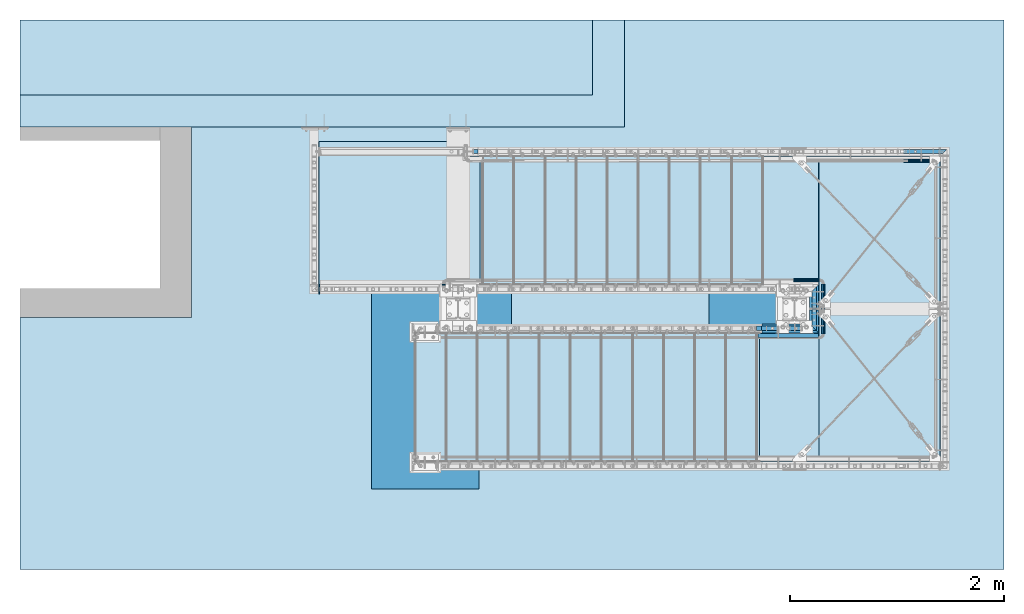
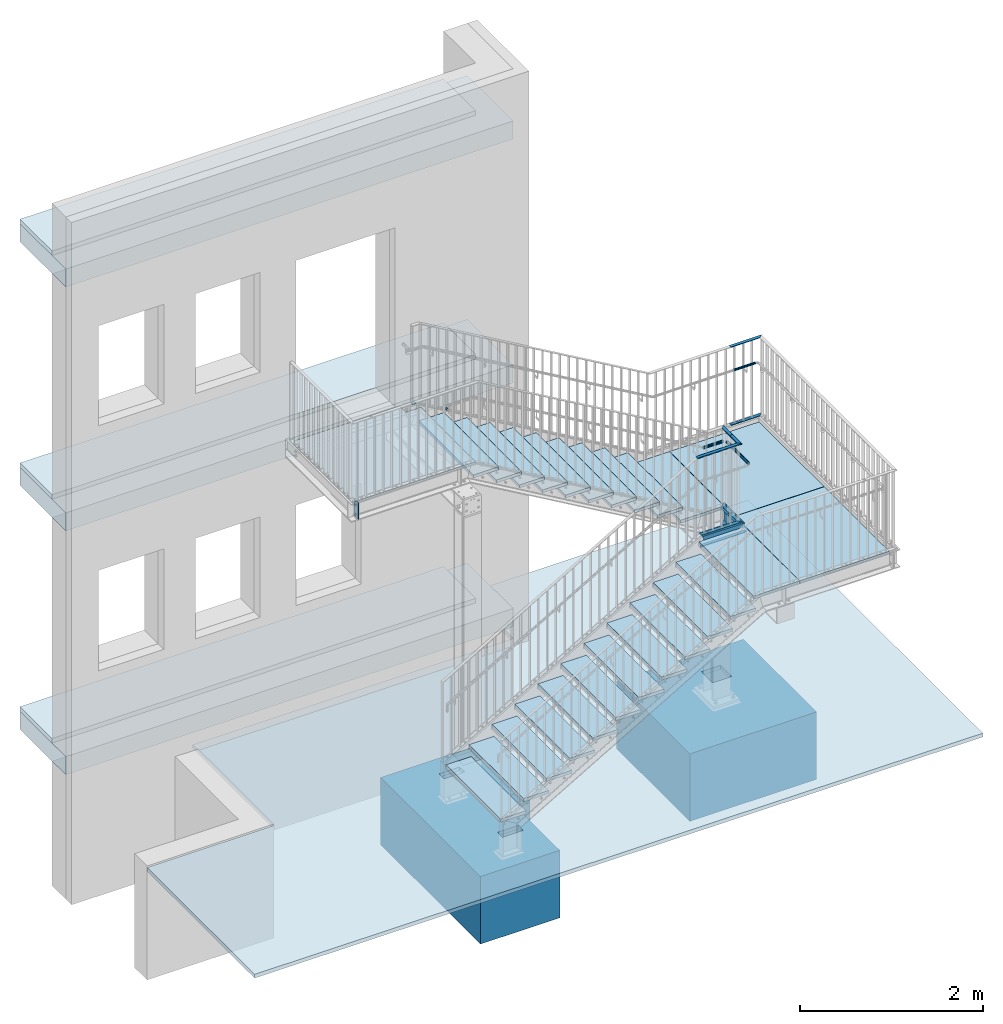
# One storey, part 18 of 145: 26 plates, 18 beams, 9 slabs, 24 openings.
"""IFC2X3 building model written with IfcOpenShell, lengths in millimetres."""

from ifc_helpers import new_model, entity, si_unit, converted_unit, frame, frame_2d, origin, origin_with_axes, origin_2d, origin_2d_with_axis, place, context, project, spatial, polyline, rectangle, circle, hollow_circle, l_section, u_section, outline, extrude, clip, halfspace, material, layer, layer_set, element, save


model = new_model("IFC2X3")

# Units and contexts
model_context = context("Model", 3, precision=1e-09, world=origin_with_axes())
ifc_project = project(units=[si_unit("LENGTHUNIT", "METRE", prefix="MILLI"), si_unit("AREAUNIT", "SQUARE_METRE"), si_unit("VOLUMEUNIT", "CUBIC_METRE"), converted_unit("PLANEANGLEUNIT", "DEGREE", entity("IfcPlaneAngleMeasure", 0.01745329), si_unit("PLANEANGLEUNIT", "RADIAN"), dimensions=[0, 0, 0, 0, 0, 0, 0])], contexts=[model_context])

# Site, building, storey
site_placement = place(None, origin_with_axes())
site = spatial("IfcSite", under=ifc_project, at=site_placement, Name="BZ1 Grund- und Mittelschule 85716 Unterschlei?heim", CompositionType="ELEMENT")
building_placement = place(site_placement, origin_with_axes())
building = spatial("IfcBuilding", under=site, at=building_placement, Name="Struktur 1", CompositionType="ELEMENT")
storey_placement = place(building_placement, origin_with_axes())
storey = spatial("IfcBuildingStorey", under=building, at=storey_placement, Name="Default Storey", CompositionType="ELEMENT", Elevation=0.0)

# Beams
ifc_material_1 = material(Name="1.4301")
beam_1_placement = place(None, frame((16938.141490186, -1489.502, 4085.0), z_axis=(0.0, 1.0, 0.0), x_axis=(0.0, 0.0, 1.0)))
element("IfcBeam", 1, at=beam_1_placement, inside=storey, material=ifc_material_1, Name="-", ObjectType="-", context=model_context, shape_type="SweptSolid", body=[
    extrude(hollow_circle(Radius=15.0, WallThickness=2.0, at=origin_2d()), origin(), (0.0, 0.0, 1.0), 28.5),
])
ifc_material_2 = material(Name="S235JR")
beam_2_placement = place(None, frame((17277.754556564, -227.502, 3304.000000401), z_axis=(1.0, 0.0, 0.0), x_axis=(0.0, 0.0, -1.0)))
element("IfcBeam", 2, at=beam_2_placement, inside=storey, material=ifc_material_2, Name="-", ObjectType="-", context=model_context, shape_type="Clipping", body=[
    clip(extrude(rectangle(XDim=8.0, YDim=40.0, at=origin_2d()), origin(), (0.0, 0.0, -1.0), 68.613066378), halfspace(frame((7417.475003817, 227.502, -2021.000201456), z_axis=(-0.260320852, 0.0, -0.965522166), x_axis=(0.0, -1.0, 0.0)), True)),
])
beam_3_placement = place(None, frame((20444.84472732, -1427.502, 2398.636364), z_axis=(1.0, 0.0, 0.0), x_axis=(0.0, 0.0, 1.0)))
element("IfcBeam", 3, at=beam_3_placement, inside=storey, material=ifc_material_1, Name="-", ObjectType="-", context=model_context, shape_type="Clipping", body=[
    clip(extrude(hollow_circle(Radius=15.0, WallThickness=2.0, at=origin_2d()), origin(), (0.0, 0.0, -1.0), 263.717697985), halfspace(frame((-7314.047140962, -1427.502, -2213.73484666), z_axis=(-0.260320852, 0.0, 0.965522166), x_axis=(0.0, -1.0, 0.0)), True)),
])

# Beam, openings
beam_4_placement = place(None, frame((20413.54472732, -2163.110643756, 1493.6363644), z_axis=(0.0, -1.0, 0.0), x_axis=(-1.0, 0.0, 0.0)))
beam_4 = element("IfcBeam", 4, at=beam_4_placement, inside=storey, material=ifc_material_2, Name="-", ObjectType="-", context=model_context, shape_type="Clipping", body=[
    clip(extrude(u_section(Depth=240.0, FlangeWidth=85.0, WebThickness=9.5, FlangeThickness=13.0, FilletRadius=13.0, EdgeRadius=6.5, FlangeSlope=4.574, at=frame_2d((20.2, 0.0))), origin(), (0.0, 0.0, -1.0), 458.108643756), halfspace(frame((11155.622656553, 1493.6363644, -11421.032714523), z_axis=(-0.707106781, 0.0, -0.707106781), x_axis=(0.707106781, 0.0, -0.707106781)), True)),
])
opening_1_placement = place(beam_4_placement, frame((-22.8, 30.0, -423.108643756), z_axis=(1.0, 0.0, 0.0), x_axis=(0.0, 0.0, 1.0)))
element("IfcOpeningElement", 5, at=opening_1_placement, cuts=beam_4, ObjectType="Opening", context=model_context, shape_type="SweptSolid", body=[
    extrude(circle(Radius=7.001, at=origin_2d_with_axis()), origin(), (0.0, 0.0, 1.0), 10.5),
])
opening_2_placement = place(beam_4_placement, frame((20.2, -106.5, -362.441977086), z_axis=(0.0, -1.0, 0.0), x_axis=(0.0, 0.0, 1.0)))
element("IfcOpeningElement", 6, at=opening_2_placement, cuts=beam_4, ObjectType="Opening", context=model_context, shape_type="SweptSolid", body=[
    extrude(circle(Radius=7.001, at=origin_2d_with_axis()), origin(), (0.0, 0.0, 1.0), 14.0),
])

beam_5_placement = place(None, frame((20413.54472732, -1685.002, 1493.6363644), z_axis=(0.0, -1.0, 0.0), x_axis=(-1.0, 0.0, 0.0)))
beam_5 = element("IfcBeam", 7, at=beam_5_placement, inside=storey, material=ifc_material_2, Name="-", ObjectType="-", context=model_context, shape_type="Clipping", body=[
    clip(extrude(u_section(Depth=240.0, FlangeWidth=85.0, WebThickness=9.5, FlangeThickness=13.0, FilletRadius=13.0, EdgeRadius=6.5, FlangeSlope=4.574, at=frame_2d((20.2, 0.0))), origin(), (0.0, 0.0, -1.0), 458.108643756), halfspace(frame((9460.620656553, 1493.6363644, 9267.922070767), z_axis=(-0.707106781, 0.0, 0.707106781), x_axis=(-0.707106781, 0.0, -0.707106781)), True)),
])
opening_3_placement = place(beam_5_placement, frame((-22.8, 30.0, -35.0), z_axis=(1.0, 0.0, 0.0), x_axis=(0.0, 0.0, 1.0)))
element("IfcOpeningElement", 8, at=opening_3_placement, cuts=beam_5, ObjectType="Opening", context=model_context, shape_type="SweptSolid", body=[
    extrude(circle(Radius=7.001, at=origin_2d_with_axis()), origin(), (0.0, 0.0, 1.0), 10.5),
])
opening_4_placement = place(beam_5_placement, frame((20.2, -106.5, -88.66566667), z_axis=(0.0, 1.0, 0.0), x_axis=(-1.0, 0.0, 0.0)))
element("IfcOpeningElement", 9, at=opening_4_placement, cuts=beam_5, ObjectType="Opening", context=model_context, shape_type="SweptSolid", body=[
    extrude(circle(Radius=7.001, at=frame_2d((0.0, -7.001), x_axis=(1.0, 0.0))), origin(), (0.0, 0.0, -1.0), 14.0),
])

# Beam, opening
beam_6_placement = place(None, frame((20393.34472732, -1906.346410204, 1617.636364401), z_axis=(0.0, -1.0, 0.0), x_axis=(0.0, 0.0, 1.0)))
beam_6 = element("IfcBeam", 10, at=beam_6_placement, inside=storey, material=ifc_material_2, Name="-", ObjectType="-", context=model_context, shape_type="Clipping", body=[
    clip(extrude(rectangle(XDim=8.0, YDim=40.0, at=origin_2d()), origin(), (0.0, 0.0, -1.0), 201.344410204), halfspace(frame((-1617.636364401, 11135.422656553, -11164.268480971), z_axis=(0.0, -0.707106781, -0.707106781), x_axis=(0.0, 0.707106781, -0.707106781)), True)),
])
opening_5_placement = place(beam_6_placement, frame((-4.5, 0.0, -105.677743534), z_axis=(1.0, 0.0, 0.0), x_axis=(0.0, 0.0, 1.0)))
element("IfcOpeningElement", 11, at=opening_5_placement, cuts=beam_6, ObjectType="Opening", context=model_context, shape_type="SweptSolid", body=[
    extrude(circle(Radius=7.501, at=origin_2d_with_axis()), origin(), (0.0, 0.0, 1.0), 9.0),
])

beam_7_placement = place(None, frame((20393.34472732, -1685.002, 1617.636364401), z_axis=(0.0, -1.0, 0.0), x_axis=(0.0, 0.0, 1.0)))
beam_7 = element("IfcBeam", 12, at=beam_7_placement, inside=storey, material=ifc_material_2, Name="-", ObjectType="-", context=model_context, shape_type="Clipping", body=[
    clip(extrude(rectangle(XDim=8.0, YDim=40.0, at=origin_2d()), origin(), (0.0, 0.0, -1.0), 201.344410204), halfspace(frame((-1617.636364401, 9440.420656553, 9267.922070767), z_axis=(0.0, -0.707106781, 0.707106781), x_axis=(0.0, -0.707106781, -0.707106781)), True)),
])
opening_6_placement = place(beam_7_placement, frame((-4.5, 0.0, -88.16566667), z_axis=(-1.0, 0.0, 0.0), x_axis=(0.0, -1.0, 0.0)))
element("IfcOpeningElement", 13, at=opening_6_placement, cuts=beam_7, ObjectType="Opening", context=model_context, shape_type="SweptSolid", body=[
    extrude(circle(Radius=7.501, at=frame_2d((0.0, -7.501), x_axis=(1.0, 0.0))), origin(), (0.0, 0.0, -1.0), 9.0),
])

# Beams
beam_8_placement = place(None, frame((20393.34472732, -1906.346410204, 2659.6363644), z_axis=(0.0, -1.0, 0.0), x_axis=(0.0, 0.0, 1.0)))
element("IfcBeam", 14, at=beam_8_placement, inside=storey, material=ifc_material_2, Name="-", ObjectType="-", context=model_context, shape_type="Clipping", body=[
    clip(extrude(rectangle(XDim=8.0, YDim=40.0, at=origin_2d()), origin(), (0.0, 0.0, -1.0), 210.344410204), halfspace(frame((-2659.6363644, 11135.422656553, -11164.268480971), z_axis=(0.0, -0.707106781, -0.707106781), x_axis=(0.0, 0.707106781, -0.707106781)), True)),
])
beam_9_placement = place(None, frame((20393.34472732, -1694.002, 2659.6363644), z_axis=(0.0, -1.0, 0.0), x_axis=(0.0, 0.0, 1.0)))
element("IfcBeam", 15, at=beam_9_placement, inside=storey, material=ifc_material_2, Name="-", ObjectType="-", context=model_context, shape_type="Clipping", body=[
    clip(extrude(rectangle(XDim=8.0, YDim=40.0, at=origin_2d()), origin(), (0.0, 0.0, -1.0), 210.344410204), halfspace(frame((-2659.6363644, 9440.420656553, 9258.922070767), z_axis=(0.0, -0.707106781, 0.707106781), x_axis=(0.0, -0.707106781, -0.707106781)), True)),
])
for number, where, z_axis, x_axis in (
    (16, (20478.34472732, -1929.002, 2398.636364), (0.0, 1.0, 0.0), (0.0, 0.0, -1.0)),
    (17, (20478.34472732, -1695.002, 2398.636364), (0.0, 1.0, 0.0), (0.0, 0.0, -1.0)),
):
    element("IfcBeam", number, at=place(None, frame(where, z_axis=z_axis, x_axis=x_axis)), inside=storey, material=ifc_material_1, Name="-", ObjectType="-", context=model_context, shape_type="SweptSolid", body=[
        extrude(hollow_circle(Radius=15.0, WallThickness=2.0, at=origin_2d()), origin(), (0.0, 0.0, 1.0), 234.0),
    ])

# Beam, opening
beam_10_placement = place(None, frame((21229.141490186, -227.502, 1617.636364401), z_axis=(1.0, 0.0, 0.0), x_axis=(0.0, 0.0, -1.0)))
beam_10 = element("IfcBeam", 18, at=beam_10_placement, inside=storey, material=ifc_material_2, Name="-", ObjectType="-", context=model_context, shape_type="Clipping", body=[
    clip(extrude(rectangle(XDim=8.0, YDim=40.0, at=origin_2d()), origin(), (0.0, 0.0, 1.0), 413.047647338), halfspace(frame((1617.636364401, -10692.920656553, -10308.718833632), z_axis=(0.0, 0.707106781, -0.707106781), x_axis=(0.0, -0.707106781, -0.707106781)), True)),
])
opening_7_placement = place(beam_10_placement, frame((4.5, 0.0, 109.0), z_axis=(-1.0, 0.0, 0.0), x_axis=(0.0, 0.0, -1.0)))
element("IfcOpeningElement", 19, at=opening_7_placement, cuts=beam_10, ObjectType="Opening", context=model_context, shape_type="SweptSolid", body=[
    extrude(circle(Radius=7.501, at=origin_2d_with_axis()), origin(), (0.0, 0.0, 1.0), 9.0),
])

# Beams
beam_11_placement = place(None, frame((21229.141490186, -227.502, 2659.6363644), z_axis=(1.0, 0.0, 0.0), x_axis=(0.0, 0.0, -1.0)))
element("IfcBeam", 20, at=beam_11_placement, inside=storey, material=ifc_material_2, Name="-", ObjectType="-", context=model_context, shape_type="Clipping", body=[
    clip(extrude(rectangle(XDim=8.0, YDim=40.0, at=origin_2d()), origin(), (0.0, 0.0, 1.0), 413.047647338), halfspace(frame((2659.6363644, -10692.920656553, -10308.718833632), z_axis=(0.0, 0.707106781, -0.707106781), x_axis=(0.0, -0.707106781, -0.707106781)), True)),
])
beam_12_placement = place(None, frame((21494.84472732, -312.502, 2398.636364), z_axis=(-1.0, 0.0, 0.0), x_axis=(0.0, 0.0, 1.0)))
element("IfcBeam", 21, at=beam_12_placement, inside=storey, material=ifc_material_1, Name="-", ObjectType="-", context=model_context, shape_type="SweptSolid", body=[
    extrude(hollow_circle(Radius=15.0, WallThickness=2.0, at=origin_2d()), origin(), (0.0, 0.0, 1.0), 266.703237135),
])

# Beam, openings
beam_13_placement = place(None, frame((19760.447410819, -1897.702, 1493.6363644), z_axis=(-1.0, 0.0, 0.0), x_axis=(0.0, 1.0, 0.0)))
beam_13 = element("IfcBeam", 22, at=beam_13_placement, inside=storey, material=ifc_material_2, Name="-", ObjectType="-", context=model_context, shape_type="Clipping", body=[
    clip(clip(extrude(u_section(Depth=240.0, FlangeWidth=85.0, WebThickness=9.5, FlangeThickness=13.0, FilletRadius=13.0, EdgeRadius=6.5, FlangeSlope=4.574, at=frame_2d((20.2, 0.0))), origin(), (0.0, 0.0, -1.0), 918.505960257), halfspace(frame((1897.702, -3619.033794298, 797.708450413), z_axis=(0.0, -0.260320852, -0.965522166), x_axis=(1.0, 0.0, 0.0)), True)), halfspace(frame((11155.622656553, 1493.6363644, 10502.526754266), z_axis=(-0.707106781, 0.0, 0.707106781), x_axis=(-0.707106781, 0.0, -0.707106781)), True)),
])
opening_8_placement = place(beam_13_placement, frame((20.2, -106.5, -236.097482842), z_axis=(0.0, 1.0, 0.0), x_axis=(-1.0, 0.0, 0.0)))
element("IfcOpeningElement", 23, at=opening_8_placement, cuts=beam_13, ObjectType="Opening", context=model_context, shape_type="SweptSolid", body=[
    extrude(circle(Radius=7.001, at=frame_2d((0.0, -7.001), x_axis=(1.0, 0.0))), origin(), (0.0, 0.0, -1.0), 14.0),
])
opening_9_placement = place(beam_13_placement, frame((20.2, -106.5, -456.097482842), z_axis=(0.0, 1.0, 0.0), x_axis=(-1.0, 0.0, 0.0)))
element("IfcOpeningElement", 24, at=opening_9_placement, cuts=beam_13, ObjectType="Opening", context=model_context, shape_type="SweptSolid", body=[
    extrude(circle(Radius=7.001, at=frame_2d((0.0, -7.001), x_axis=(1.0, 0.0))), origin(), (0.0, 0.0, -1.0), 14.0),
])
opening_10_placement = place(beam_13_placement, frame((20.2, 120.5, -450.397316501), z_axis=(0.0, -1.0, 0.0), x_axis=(0.0, 0.0, -1.0)))
element("IfcOpeningElement", 25, at=opening_10_placement, cuts=beam_13, ObjectType="Opening", context=model_context, shape_type="SweptSolid", body=[
    extrude(circle(Radius=9.001, at=frame_2d((60.0, 0.0), x_axis=(1.0, 0.0))), origin(), (0.0, 0.0, 1.0), 14.0),
])
opening_11_placement = place(beam_13_placement, frame((20.2, 120.5, -450.397316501), z_axis=(0.0, -1.0, 0.0), x_axis=(0.0, 0.0, -1.0)))
element("IfcOpeningElement", 26, at=opening_11_placement, cuts=beam_13, ObjectType="Opening", context=model_context, shape_type="SweptSolid", body=[
    extrude(circle(Radius=9.001, at=frame_2d((-60.0, 0.0), x_axis=(1.0, 0.0))), origin(), (0.0, 0.0, 1.0), 14.0),
])

beam_14_placement = place(None, frame((19883.932827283, -1877.502, 1617.636364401), z_axis=(-1.0, 0.0, 0.0), x_axis=(0.0, 0.0, 1.0)))
beam_14 = element("IfcBeam", 27, at=beam_14_placement, inside=storey, material=ifc_material_2, Name="-", ObjectType="-", context=model_context, shape_type="Clipping", body=[
    clip(clip(extrude(rectangle(XDim=8.0, YDim=40.0, at=origin_2d()), origin(), (0.0, 0.0, -1.0), 538.256310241), halfspace(frame((3495.033794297, 1877.502, 921.193866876), z_axis=(0.260320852, 0.0, -0.965522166), x_axis=(0.0, 1.0, 0.0)), True)), halfspace(frame((-1617.636364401, 11135.422656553, 10626.012170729), z_axis=(0.0, -0.707106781, 0.707106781), x_axis=(0.0, -0.707106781, -0.707106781)), True)),
])
opening_12_placement = place(beam_14_placement, frame((-4.5, 0.0, -332.112066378), z_axis=(-1.0, 0.0, 0.0), x_axis=(0.0, -1.0, 0.0)))
element("IfcOpeningElement", 28, at=opening_12_placement, cuts=beam_14, ObjectType="Opening", context=model_context, shape_type="SweptSolid", body=[
    extrude(circle(Radius=7.501, at=frame_2d((0.0, -7.501), x_axis=(1.0, 0.0))), origin(), (0.0, 0.0, -1.0), 9.0),
])
opening_13_placement = place(beam_14_placement, frame((-4.5, 0.0, -112.112066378), z_axis=(-1.0, 0.0, 0.0), x_axis=(0.0, -1.0, 0.0)))
element("IfcOpeningElement", 29, at=opening_13_placement, cuts=beam_14, ObjectType="Opening", context=model_context, shape_type="SweptSolid", body=[
    extrude(circle(Radius=7.501, at=frame_2d((0.0, -7.501), x_axis=(1.0, 0.0))), origin(), (0.0, 0.0, -1.0), 9.0),
])

# Beams
beam_15_placement = place(None, frame((19834.499463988, -1877.502, 2659.6363644), z_axis=(-1.0, 0.0, 0.0), x_axis=(0.0, 0.0, 1.0)))
element("IfcBeam", 30, at=beam_15_placement, inside=storey, material=ifc_material_2, Name="-", ObjectType="-", context=model_context, shape_type="Clipping", body=[
    clip(clip(extrude(rectangle(XDim=8.0, YDim=40.0, at=origin_2d()), origin(), (0.0, 0.0, -1.0), 587.689673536), halfspace(frame((2511.222096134, 1877.502, 655.94185231), z_axis=(0.260320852, 0.0, -0.965522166), x_axis=(0.0, 1.0, 0.0)), True)), halfspace(frame((-2659.6363644, 11135.422656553, 10576.578807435), z_axis=(0.0, -0.707106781, 0.707106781), x_axis=(0.0, -0.707106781, -0.707106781)), True)),
])
beam_16_placement = place(None, frame((19869.545399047, -1934.202, 1512.4363644), z_axis=(-1.0, 0.0, 0.0), x_axis=(0.0, 0.0, -1.0)))
element("IfcBeam", 31, at=beam_16_placement, inside=storey, material=ifc_material_2, Name="-", ObjectType="-", context=model_context, shape_type="SweptSolid", body=[
    extrude(l_section(Depth=40.0, Width=40.0, Thickness=4.0, FilletRadius=6.0, EdgeRadius=3.0, at=frame_2d((8.8, 8.8))), origin(), (0.0, 0.0, -1.0), 566.299328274),
])

# Plates
ifc_layer_1 = layer(ifc_material_2, 40.0)
ifc_layer_set_1 = layer_set([ifc_layer_1], Name="S235JR")
for number, where, z_axis, x_axis, name in (
    (32, (16825.545399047, -2520.002, -331.3636356), (0.0, 0.0, 1.0), (0.0, 1.0, 0.0), "Grating"),
    (33, (17405.545399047, -2520.002, 5.909091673), (0.0, 0.0, 1.0), (0.0, 1.0, 0.0), "Grating"),
    (34, (17695.545399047, -2520.002, 174.545455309), (0.0, 0.0, 1.0), (0.0, 1.0, 0.0), "Grating"),
    (35, (17985.545399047, -2520.002, 343.181818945), (0.0, 0.0, 1.0), (0.0, 1.0, 0.0), "Grating"),
    (36, (18275.545399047, -2520.002, 511.818182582), (0.0, 0.0, 1.0), (0.0, 1.0, 0.0), "Grating"),
    (37, (18565.545399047, -2520.002, 680.454546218), (0.0, 0.0, 1.0), (0.0, 1.0, 0.0), "Grating"),
    (38, (18855.545399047, -2520.002, 849.090909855), (0.0, 0.0, 1.0), (0.0, 1.0, 0.0), "Grating"),
    (39, (19145.545399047, -2520.002, 1017.727273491), (0.0, 0.0, 1.0), (0.0, 1.0, 0.0), "Grating"),
    (40, (19435.545399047, -2520.002, 1186.363637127), (0.0, 0.0, 1.0), (0.0, 1.0, 0.0), "Grating"),
    (41, (19725.545399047, -2520.002, 1355.000000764), (0.0, 0.0, 1.0), (0.0, 1.0, 0.0), "Grating"),
    (42, (17726.1419848, -870.002, 2872.727273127), (0.0, 0.0, 1.0), (0.0, -1.0, 0.0), "Grating"),
    (43, (17436.1419848, -870.002, 3041.363636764), (0.0, 0.0, 1.0), (0.0, -1.0, 0.0), "Grating"),
    (44, (18016.1419848, -870.002, 2704.090909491), (0.0, 0.0, 1.0), (0.0, -1.0, 0.0), "Grating"),
    (45, (18886.1419848, -870.002, 2198.181818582), (0.0, 0.0, 1.0), (0.0, -1.0, 0.0), "Grating"),
    (46, (18596.1419848, -870.002, 2366.818182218), (0.0, 0.0, 1.0), (0.0, -1.0, 0.0), "Grating"),
    (47, (18306.1419848, -870.002, 2535.454545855), (0.0, 0.0, 1.0), (0.0, -1.0, 0.0), "Grating"),
    (48, (19756.1419848, -870.002, 1692.272727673), (0.0, 0.0, 1.0), (0.0, -1.0, 0.0), "Grating"),
    (49, (19466.1419848, -870.002, 1860.909091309), (0.0, 0.0, 1.0), (0.0, -1.0, 0.0), "Grating"),
    (50, (19176.1419848, -870.002, 2029.545454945), (0.0, 0.0, 1.0), (0.0, -1.0, 0.0), "Grating"),
):
    element("IfcPlate", number, at=place(None, frame(where, z_axis=z_axis, x_axis=x_axis)), inside=storey, material=ifc_layer_set_1, Name=name, ObjectType="Grating", context=model_context, shape_type="SweptSolid", body=[
        extrude(outline(polyline([(-597.0, -159.0), (597.0, -159.0), (597.0, 159.0), (-597.0, 159.0), (-597.0, -159.0)])), origin_with_axes(), (0.0, 0.0, 1.0), 40.0),
    ])

# Plate, opening
plate_1_placement = place(None, frame((16539.64285606, -802.002, 3210.0000004), z_axis=(0.0, 0.0, 1.0), x_axis=(1.0, 0.0, 0.0)))
plate_1 = element("IfcPlate", 51, at=plate_1_placement, inside=storey, material=ifc_layer_set_1, Name="Grating", ObjectType="Grating", context=model_context, shape_type="SweptSolid", body=[
    extrude(outline(polyline([(-765.49912874, -667.0), (765.49912874, -667.0), (765.49912874, 667.0), (-765.49912874, 667.0), (-765.49912874, -667.0)])), origin_with_axes(), (0.0, 0.0, 1.0), 40.0),
])
opening_14_placement = place(plate_1_placement, frame((0.0, 0.0, -0.1), z_axis=(0.0, 0.0, 1.0), x_axis=(1.0, 0.0, 0.0)))
element("IfcOpeningElement", 52, at=opening_14_placement, cuts=plate_1, ObjectType="Opening", context=model_context, shape_type="SweptSolid", body=[
    extrude(outline(polyline([(576.20187126, 530.999), (947.888538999, 530.999), (947.888538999, 784.306897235), (576.20187126, 784.306897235), (576.20187126, 530.999)])), origin(), (0.0, 0.0, 1.0), 40.2),
])

# Plate, openings
ifc_layer_2 = layer(ifc_material_2, 10.0)
ifc_layer_set_2 = layer_set([ifc_layer_2], Name="S235JR")
plate_2_placement = place(None, frame((15770.84372732, -1512.502, 3180.0000004), z_axis=(1.0, 0.0, 0.0), x_axis=(0.0, 1.0, 0.0)))
plate_2 = element("IfcPlate", 53, at=plate_2_placement, inside=storey, material=ifc_layer_set_2, Name="-", ObjectType="-", context=model_context, shape_type="SweptSolid", body=[
    extrude(outline(polyline([(-42.5, -113.0), (42.5, -113.0), (42.5, 113.0), (-42.5, 113.0), (-42.5, -113.0)])), origin_with_axes(), (0.0, 0.0, 1.0), 10.0),
])
opening_15_placement = place(plate_2_placement, frame((20.0, 94.0, -0.5), z_axis=(0.0, 0.0, 1.0), x_axis=(0.0, 1.0, 0.0)))
element("IfcOpeningElement", 54, at=opening_15_placement, cuts=plate_2, ObjectType="Opening", context=model_context, shape_type="SweptSolid", body=[
    extrude(circle(Radius=6.001, at=origin_2d_with_axis()), origin(), (0.0, 0.0, 1.0), 11.0),
])
opening_16_placement = place(plate_2_placement, frame((20.0, -94.0, -0.5), z_axis=(0.0, 0.0, 1.0), x_axis=(0.0, 1.0, 0.0)))
element("IfcOpeningElement", 55, at=opening_16_placement, cuts=plate_2, ObjectType="Opening", context=model_context, shape_type="SweptSolid", body=[
    extrude(circle(Radius=6.001, at=origin_2d_with_axis()), origin(), (0.0, 0.0, 1.0), 11.0),
])
opening_17_placement = place(plate_2_placement, frame((0.0, 0.0, -0.5), z_axis=(0.0, 0.0, 1.0), x_axis=(1.0, 0.0, 0.0)))
element("IfcOpeningElement", 56, at=opening_17_placement, cuts=plate_2, ObjectType="Opening", context=model_context, shape_type="SweptSolid", body=[
    extrude(circle(Radius=9.001, at=frame_2d((0.0, 60.0), x_axis=(1.0, 0.0))), origin(), (0.0, 0.0, 1.0), 11.0),
])
opening_18_placement = place(plate_2_placement, frame((0.0, 0.0, -0.5), z_axis=(0.0, 0.0, 1.0), x_axis=(1.0, 0.0, 0.0)))
element("IfcOpeningElement", 57, at=opening_18_placement, cuts=plate_2, ObjectType="Opening", context=model_context, shape_type="SweptSolid", body=[
    extrude(circle(Radius=9.001, at=frame_2d((0.0, -60.0), x_axis=(1.0, 0.0))), origin(), (0.0, 0.0, 1.0), 11.0),
])

# Plates
plate_3_placement = place(None, frame((20727.49335606, -982.002, 1523.6363644), z_axis=(0.0, 0.0, -1.0), x_axis=(-1.0, 0.0, 0.0)))
element("IfcPlate", 58, at=plate_3_placement, inside=storey, material=ifc_layer_set_1, Name="Grating", ObjectType="Grating", context=model_context, shape_type="SweptSolid", body=[
    extrude(outline(polyline([(840.35137126, -487.0), (840.35137126, 711.0), (291.34862874, 711.0), (291.34862874, -487.0), (840.35137126, -487.0)])), origin_with_axes(), (0.0, 0.0, -1.0), 40.0),
])
plate_4_placement = place(None, frame((20727.49335606, -982.502, 1523.6363644), z_axis=(0.0, 0.0, -1.0), x_axis=(-1.0, 0.0, 0.0)))
element("IfcPlate", 59, at=plate_4_placement, inside=storey, material=ifc_layer_set_1, Name="Grating", ObjectType="Grating", context=model_context, shape_type="SweptSolid", body=[
    extrude(outline(polyline([(288.64862874, 711.0), (-840.35137126, 711.0), (-840.35137126, -711.0), (288.64862874, -711.0), (288.64862874, 711.0)])), origin_with_axes(), (0.0, 0.0, -1.0), 40.0),
])
plate_5_placement = place(None, frame((20712.195063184, -2407.002, 1523.6363644), z_axis=(0.0, 0.0, 1.0), x_axis=(-1.0, 0.0, 0.0)))
element("IfcPlate", 60, at=plate_5_placement, inside=storey, material=ifc_layer_set_1, Name="Grating", ObjectType="Grating", context=model_context, shape_type="SweptSolid", body=[
    extrude(outline(polyline([(273.350335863, -710.5), (273.350335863, 711.5), (-855.649664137, 711.5), (-855.649664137, -710.5), (273.350335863, -710.5)])), origin_with_axes(), (0.0, 0.0, 1.0), 40.0),
])
plate_6_placement = place(None, frame((20712.195063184, -2407.502, 1523.6363644), z_axis=(0.0, 0.0, 1.0), x_axis=(-1.0, 0.0, 0.0)))
element("IfcPlate", 61, at=plate_6_placement, inside=storey, material=ifc_layer_set_1, Name="Grating", ObjectType="Grating", context=model_context, shape_type="SweptSolid", body=[
    extrude(outline(polyline([(275.650335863, -486.5), (855.649664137, -486.5), (855.649664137, 711.5), (275.650335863, 711.5), (275.650335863, -486.5)])), origin_with_axes(), (0.0, 0.0, 1.0), 40.0),
])
plate_7_placement = place(None, frame((17115.545399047, -2520.002, -162.727271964), z_axis=(0.0, 0.0, 1.0), x_axis=(0.0, 1.0, 0.0)))
element("IfcPlate", 62, at=plate_7_placement, inside=storey, material=ifc_layer_set_1, Name="Grating", ObjectType="Grating", context=model_context, shape_type="SweptSolid", body=[
    extrude(outline(polyline([(-597.0, -159.0), (597.0, -159.0), (597.0, 159.0), (-597.0, 159.0), (-597.0, -159.0)])), origin_with_axes(), (0.0, 0.0, 1.0), 40.0),
])

# Slabs
ifc_material_3 = material(Name="C25/30")
ifc_layer_3 = layer(ifc_material_3, 60.0)
ifc_layer_set_3 = layer_set([ifc_layer_3], Name="C25/30")
for number, where, z_axis, x_axis, name in (
    (63, (15654.149472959, 649.9995, 6440.0), (0.0, 0.0, 1.0), (1.0, 0.0, 0.0), "Gokoba_Estrich"),
    (64, (15654.149472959, 649.9995, -60.0), (0.0, 0.0, 1.0), (1.0, 0.0, 0.0), "Gokoba_Estrich"),
):
    element("IfcSlab", number, at=place(None, frame(where, z_axis=z_axis, x_axis=x_axis)), inside=storey, material=ifc_layer_set_3, Name=name, ObjectType="Gokoba_Estrich", context=model_context, shape_type="SweptSolid", body=[
        extrude(outline(polyline([(-2670.696254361, -350.0005), (2670.696254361, -350.0005), (2670.696254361, 350.0005), (-2670.696254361, 350.0005), (-2670.696254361, -350.0005)])), origin_with_axes(), (0.0, 0.0, 1.0), 60.0),
    ])
ifc_layer_4 = layer(ifc_material_3, 240.0)
ifc_layer_set_4 = layer_set([ifc_layer_4], Name="C25/30")
for number, where, z_axis, x_axis in (
    (65, (15804.149472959, 499.9995, 2950.0), (0.0, 0.0, 1.0), (1.0, 0.0, 0.0)),
    (66, (15804.149472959, 499.9995, 6200.0), (0.0, 0.0, 1.0), (1.0, 0.0, 0.0)),
    (67, (15804.149472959, 499.9995, -300.0), (0.0, 0.0, 1.0), (1.0, 0.0, 0.0)),
):
    element("IfcSlab", number, at=place(None, frame(where, z_axis=z_axis, x_axis=x_axis)), inside=storey, material=ifc_layer_set_4, Name="-", ObjectType="-", context=model_context, shape_type="SweptSolid", body=[
        extrude(outline(polyline([(-2820.696254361, -500.0005), (2820.696254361, -500.0005), (2820.696254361, 500.0005), (-2820.696254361, 500.0005), (-2820.696254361, -500.0005)])), origin_with_axes(), (0.0, 0.0, 1.0), 240.0),
    ])
slab_1_placement = place(None, frame((15654.149472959, 649.9995, 3190.0), z_axis=(0.0, 0.0, 1.0), x_axis=(1.0, 0.0, 0.0)))
element("IfcSlab", 68, at=slab_1_placement, inside=storey, material=ifc_layer_set_3, Name="Gokoba_Estrich", ObjectType="Gokoba_Estrich", context=model_context, shape_type="SweptSolid", body=[
    extrude(outline(polyline([(-2670.696254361, -350.0005), (2670.696254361, -350.0005), (2670.696254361, 350.0005), (-2670.696254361, 350.0005), (-2670.696254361, -350.0005)])), origin_with_axes(), (0.0, 0.0, 1.0), 60.0),
])

# Slab, openings
ifc_layer_5 = layer(ifc_material_3, 50.0)
ifc_layer_set_5 = layer_set([ifc_layer_5], Name="C25/30")
slab_2_placement = place(None, frame((17574.148472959, -1562.5, -510.0), z_axis=(0.0, 0.0, 1.0), x_axis=(1.0, 0.0, 0.0)))
slab_2 = element("IfcSlab", 69, at=slab_2_placement, inside=storey, material=ifc_layer_set_5, Name="-", ObjectType="-", context=model_context, shape_type="SweptSolid", body=[
    extrude(outline(polyline([(-4590.695254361, -2562.5), (4590.695254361, -2562.5), (4590.695254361, 2562.5), (-4590.695254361, 2562.5), (-4590.695254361, -2562.5)])), origin_with_axes(), (0.0, 0.0, 1.0), 50.0),
])
opening_19_placement = place(slab_2_placement, frame((0.0, 0.0, -0.1), z_axis=(0.0, 0.0, 1.0), x_axis=(1.0, 0.0, 0.0)))
element("IfcOpeningElement", 70, at=opening_19_placement, cuts=slab_2, ObjectType="Opening", context=model_context, shape_type="SweptSolid", body=[
    extrude(outline(polyline([(-5094.995712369, -212.501), (-2991.302745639, -212.501), (-2991.302745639, 3058.816164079), (-5094.995712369, 3058.816164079), (-5094.995712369, -212.501)])), origin(), (0.0, 0.0, 1.0), 50.2),
])
opening_20_placement = place(slab_2_placement, frame((0.0, 0.0, -0.1), z_axis=(0.0, 0.0, 1.0), x_axis=(1.0, 0.0, 0.0)))
element("IfcOpeningElement", 71, at=opening_20_placement, cuts=slab_2, ObjectType="Opening", context=model_context, shape_type="SweptSolid", body=[
    extrude(outline(polyline([(-5094.995712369, 1562.498), (1050.697254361, 1562.498), (1050.697254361, 3058.816164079), (-5094.995712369, 3058.816164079), (-5094.995712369, 1562.498)])), origin(), (0.0, 0.0, 1.0), 50.2),
])
opening_21_placement = place(slab_2_placement, frame((0.0, 0.0, -0.1), z_axis=(0.0, 0.0, 1.0), x_axis=(1.0, 0.0, 0.0)))
element("IfcOpeningElement", 72, at=opening_21_placement, cuts=slab_2, ObjectType="Opening", context=model_context, shape_type="SweptSolid", body=[
    extrude(outline(polyline([(-623.304745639, -252.503), (-383.302745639, -252.503), (-383.302745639, -12.501), (-623.304745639, -12.501), (-623.304745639, -252.503)])), origin(), (0.0, 0.0, 1.0), 50.2),
])
opening_22_placement = place(slab_2_placement, frame((0.0, 0.0, -0.1), z_axis=(0.0, 0.0, 1.0), x_axis=(1.0, 0.0, 0.0)))
element("IfcOpeningElement", 73, at=opening_22_placement, cuts=slab_2, ObjectType="Opening", context=model_context, shape_type="SweptSolid", body=[
    extrude(outline(polyline([(2516.695254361, -252.503), (2756.697254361, -252.503), (2756.697254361, -12.501), (2516.695254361, -12.501), (2516.695254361, -252.503)])), origin(), (0.0, 0.0, 1.0), 50.2),
])
opening_23_placement = place(slab_2_placement, frame((0.0, 0.0, -0.1), z_axis=(0.0, 0.0, 1.0), x_axis=(1.0, 0.0, 0.0)))
element("IfcOpeningElement", 74, at=opening_23_placement, cuts=slab_2, ObjectType="Opening", context=model_context, shape_type="SweptSolid", body=[
    extrude(outline(polyline([(-939.604073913, -367.503), (-679.602073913, -367.503), (-679.602073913, -262.501), (-939.604073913, -262.501), (-939.604073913, -367.503)])), origin(), (0.0, 0.0, 1.0), 50.2),
])
opening_24_placement = place(slab_2_placement, frame((0.0, 0.0, -0.1), z_axis=(0.0, 0.0, 1.0), x_axis=(1.0, 0.0, 0.0)))
element("IfcOpeningElement", 75, at=opening_24_placement, cuts=slab_2, ObjectType="Opening", context=model_context, shape_type="SweptSolid", body=[
    extrude(outline(polyline([(-939.604073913, -1652.503), (-679.602073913, -1652.503), (-679.602073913, -1547.501), (-939.604073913, -1547.501), (-939.604073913, -1652.503)])), origin(), (0.0, 0.0, 1.0), 50.2),
])

# Slabs
ifc_layer_6 = layer(ifc_material_3, 900.0)
ifc_layer_set_6 = layer_set([ifc_layer_6], Name="C25/30")
slab_3_placement = place(None, frame((20210.84472732, -1695.002, -1660.0), z_axis=(0.0, 0.0, 1.0), x_axis=(0.0, -1.0, 0.0)))
element("IfcSlab", 76, at=slab_3_placement, inside=storey, material=ifc_layer_set_6, Name="-", ObjectType="-", context=model_context, shape_type="SweptSolid", body=[
    extrude(outline(polyline([(-800.0, -800.0), (800.0, -800.0), (800.0, 800.0), (-800.0, 800.0), (-800.0, -800.0)])), origin_with_axes(), (0.0, 0.0, 1.0), 900.0),
])
slab_4_placement = place(None, frame((17570.84472732, -1195.002, -1660.0), z_axis=(0.0, 0.0, 1.0), x_axis=(0.0, -1.0, 0.0)))
element("IfcSlab", 77, at=slab_4_placement, inside=storey, material=ifc_layer_set_6, Name="-", ObjectType="-", context=model_context, shape_type="SweptSolid", body=[
    extrude(outline(polyline([(0.0, 0.0), (0.0, -1306.299328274), (2180.0, -1306.299328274), (2180.0, -306.299328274), (1000.0, -306.299328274), (1000.0, 0.0), (0.0, 0.0)])), origin_with_axes(), (0.0, 0.0, 1.0), 900.0),
])

save(model, "model.ifc")
